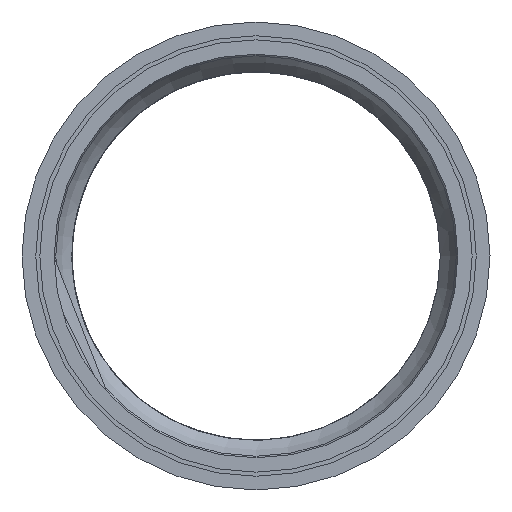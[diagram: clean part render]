
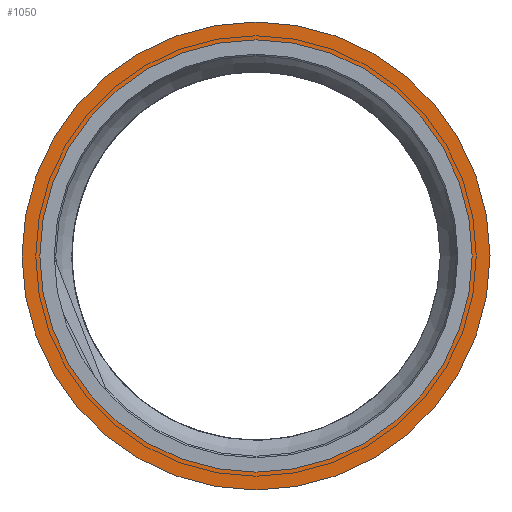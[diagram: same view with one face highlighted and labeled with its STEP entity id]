
A CAD part, left-side view. The second image highlights one B-rep face of the part: STEP entity #1050.
In plain terms, the highlighted planar face has unit normal (-1, 0, 0).
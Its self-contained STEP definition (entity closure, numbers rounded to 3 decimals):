
#133=PLANE('',#1170);
#195=FACE_BOUND('',#379,.T.);
#196=FACE_BOUND('',#380,.T.);
#379=EDGE_LOOP('',(#885));
#380=EDGE_LOOP('',(#886));
#431=CIRCLE('',#1169,73.175);
#432=CIRCLE('',#1171,67.6);
#535=VERTEX_POINT('',#4512);
#536=VERTEX_POINT('',#4515);
#653=EDGE_CURVE('',#535,#535,#431,.T.);
#654=EDGE_CURVE('',#536,#536,#432,.T.);
#885=ORIENTED_EDGE('',*,*,#654,.F.);
#886=ORIENTED_EDGE('',*,*,#653,.T.);
#1050=ADVANCED_FACE('',(#195,#196),#133,.T.);
#1169=AXIS2_PLACEMENT_3D('',#4513,#1395,#1396);
#1170=AXIS2_PLACEMENT_3D('',#4514,#1397,#1398);
#1171=AXIS2_PLACEMENT_3D('',#4516,#1399,#1400);
#1395=DIRECTION('center_axis',(-1.,0.,0.));
#1396=DIRECTION('ref_axis',(0.,0.,
-1.));
#1397=DIRECTION('center_axis',(-1.,0.,0.));
#1398=DIRECTION('ref_axis',(0.,0.,-1.));
#1399=DIRECTION('center_axis',(-1.,0.,0.));
#1400=DIRECTION('ref_axis',(0.,0.,
-1.));
#4512=CARTESIAN_POINT('',(-1566.7,-73.175,0.));
#4513=CARTESIAN_POINT('Origin',(-1566.7,0.,0.));
#4514=CARTESIAN_POINT('Origin',(-1566.7,-67.6,0.));
#4515=CARTESIAN_POINT('',(-1566.7,-67.6,0.));
#4516=CARTESIAN_POINT('Origin',(-1566.7,0.,0.));
